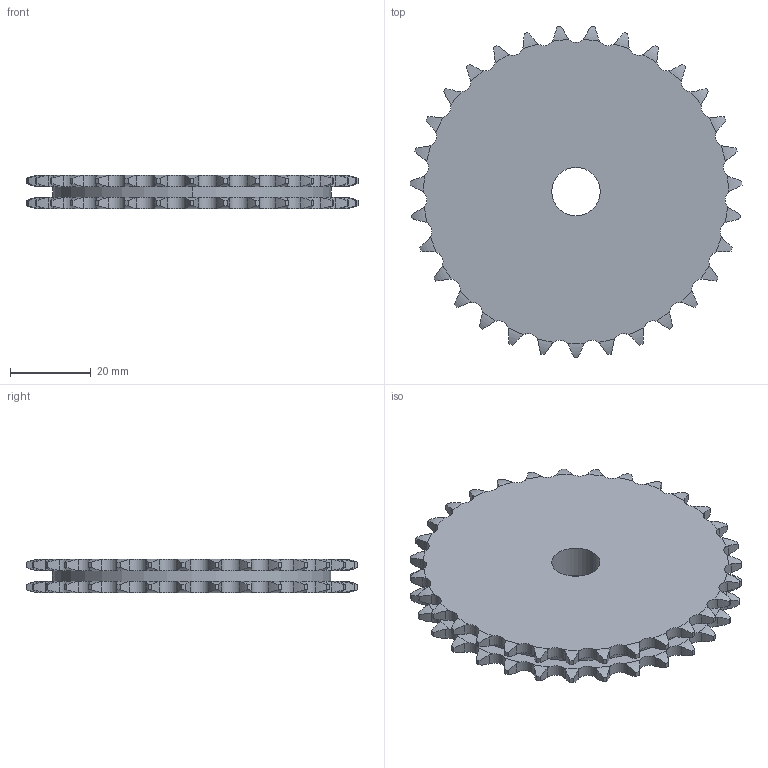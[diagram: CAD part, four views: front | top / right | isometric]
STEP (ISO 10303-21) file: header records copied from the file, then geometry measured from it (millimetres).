
FILE_DESCRIPTION((''),'2;1');
FILE_NAME('500-082-0031_PRT','2021-02-12T',('Brieden'),('Brieden'),'PRO/ENGINEER BY PARAMETRIC TECHNOLOGY CORPORATION, 2010160','PRO/ENGINEER BY PARAMETRIC TECHNOLOGY CORPORATION, 2010160','');
FILE_SCHEMA(('AUTOMOTIVE_DESIGN { 1 0 10303 214 1 1 1 1 }'));
Length unit declared in the file: millimetre
Products named in the file (1): 500-082-0031_PRT
Bounding box: 82.33 x 82.23 x 8.3 mm (x, y, z)
Volume: 35244.5 mm3; surface area: 13794.2 mm2
Topology: 1 solids, 1 shells, 380 faces, 1128 edges, 752 vertices
Faces by surface type: cylinder 252, torus 124, plane 4
Entity records: 18188 total; most frequent: CARTESIAN_POINT 5153, ORIENTED_EDGE 2256, DIRECTION 1772, PRESENTATION_STYLE_ASSIGNMENT 1129, STYLED_ITEM 1129, CURVE_STYLE 1128, EDGE_CURVE 1128, AXIS2_PLACEMENT_3D 760
